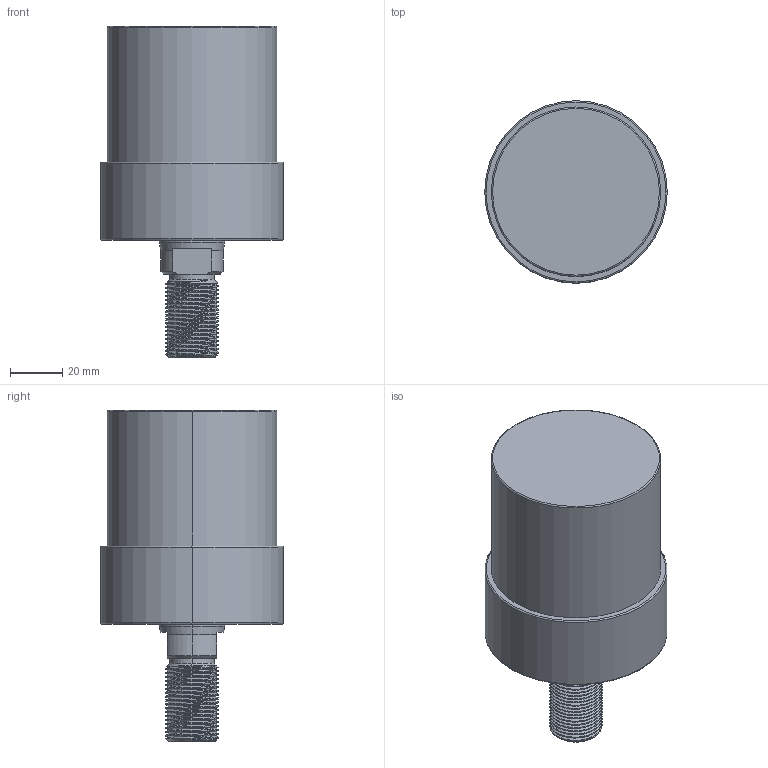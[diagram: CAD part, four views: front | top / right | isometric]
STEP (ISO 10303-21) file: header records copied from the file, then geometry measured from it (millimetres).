
FILE_DESCRIPTION (( 'STEP AP203' ), '1' );
FILE_NAME ('CLLU-065GT-035.STEP', '2020-01-16T01:04:03', ( '' ), ( '' ), 'SwSTEP 2.0', 'SolidWorks 2015', '' );
FILE_SCHEMA (( 'CONFIG_CONTROL_DESIGN' ));
Length unit declared in the file: millimetre
Products named in the file (1): CLLU-065GT-035
Bounding box: 70 x 70 x 127 mm (x, y, z)
Volume: 301052.2 mm3; surface area: 30034.8 mm2
Topology: 1 solids, 1 shells, 107 faces, 270 edges, 166 vertices
Faces by surface type: cylinder 61, cone 26, plane 12, torus 6, bspline 2
Entity records: 5319 total; most frequent: CARTESIAN_POINT 2918, ORIENTED_EDGE 524, DIRECTION 461, EDGE_CURVE 262, AXIS2_PLACEMENT_3D 184, VERTEX_POINT 166, EDGE_LOOP 116, FACE_OUTER_BOUND 107
